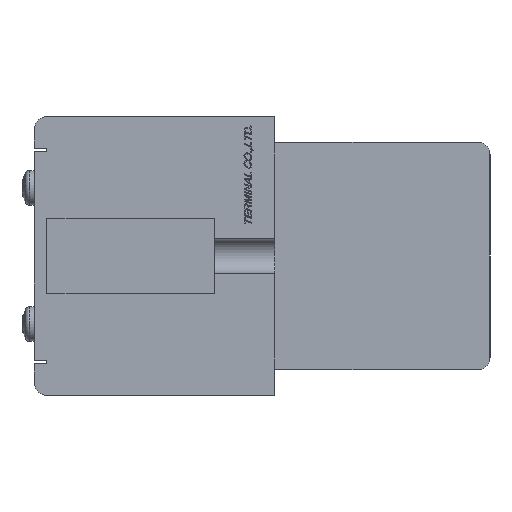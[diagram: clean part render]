
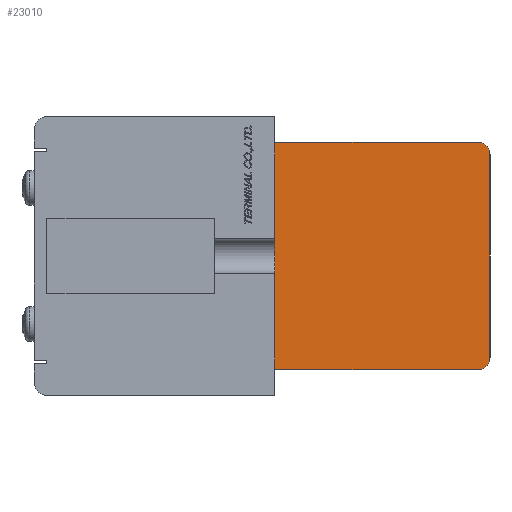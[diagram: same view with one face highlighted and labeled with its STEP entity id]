
A CAD part, left-side view. The second image highlights one B-rep face of the part: STEP entity #23010.
In plain terms, the highlighted planar face has unit normal (-1, 0, 0).
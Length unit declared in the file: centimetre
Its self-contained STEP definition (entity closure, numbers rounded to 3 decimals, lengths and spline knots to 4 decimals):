
#887=CIRCLE('',#39290,0.2);
#888=CIRCLE('',#39293,0.2);
#2817=VERTEX_POINT('',#34729);
#2818=VERTEX_POINT('',#34730);
#2819=VERTEX_POINT('',#34735);
#2820=VERTEX_POINT('',#34739);
#2821=VERTEX_POINT('',#34743);
#2822=VERTEX_POINT('',#34744);
#5097=VECTOR('',#27460,1.);
#5100=VECTOR('',#27468,1.);
#5101=VECTOR('',#27469,1.);
#5102=VECTOR('',#27470,1.);
#7348=LINE('',#34734,#5097);
#7351=LINE('',#34742,#5100);
#7352=LINE('',#34745,#5101);
#7353=LINE('',#34746,#5102);
#10308=EDGE_CURVE('',#2817,#2818,#887,.T.);
#10311=EDGE_CURVE('',#2818,#2819,#7348,.T.);
#10313=EDGE_CURVE('',#2819,#2820,#888,.T.);
#10315=EDGE_CURVE('',#2821,#2822,#7351,.T.);
#10316=EDGE_CURVE('',#2820,#2821,#7352,.T.);
#10317=EDGE_CURVE('',#2822,#2817,#7353,.T.);
#15680=ORIENTED_EDGE('',*,*,#10315,.F.);
#15681=ORIENTED_EDGE('',*,*,#10316,.F.);
#15682=ORIENTED_EDGE('',*,*,#10313,.F.);
#15683=ORIENTED_EDGE('',*,*,#10311,.F.);
#15684=ORIENTED_EDGE('',*,*,#10308,.F.);
#15685=ORIENTED_EDGE('',*,*,#10317,.F.);
#19982=EDGE_LOOP('',(#15680,#15681,#15682,#15683,#15684,#15685));
#21561=FACE_BOUND('',#19982,.T.);
#23010=ADVANCED_FACE('',(#21561),#24095,.F.);
#24095=PLANE('',#39294);
#27455=DIRECTION('',(1.,0.,0.));
#27456=DIRECTION('',(0.,0.,-0.2));
#27460=DIRECTION('',(0.,0.,-1.));
#27464=DIRECTION('',(1.,0.,0.));
#27465=DIRECTION('',(0.,0.,-0.2));
#27467=DIRECTION('',(1.,0.,0.));
#27468=DIRECTION('',(0.,0.,1.));
#27469=DIRECTION('',(0.,1.,0.));
#27470=DIRECTION('',(0.,-1.,0.));
#34728=CARTESIAN_POINT('',(-5.1,-3.2,1.6));
#34729=CARTESIAN_POINT('',(-5.1,-3.2,1.8));
#34730=CARTESIAN_POINT('',(-5.1,-3.4,1.6));
#34734=CARTESIAN_POINT('',(-5.1,-3.4,-1.6));
#34735=CARTESIAN_POINT('',(-5.1,-3.4,-1.6));
#34738=CARTESIAN_POINT('',(-5.1,-3.2,-1.6));
#34739=CARTESIAN_POINT('',(-5.1,-3.2,-1.8));
#34741=CARTESIAN_POINT('',(-5.1,-1.6784,0.));
#34742=CARTESIAN_POINT('',(-5.1,0.,1.8));
#34743=CARTESIAN_POINT('',(-5.1,0.,-1.8));
#34744=CARTESIAN_POINT('',(-5.1,0.,1.8));
#34745=CARTESIAN_POINT('',(-5.1,0.,-1.8));
#34746=CARTESIAN_POINT('',(-5.1,-3.2,1.8));
#39290=AXIS2_PLACEMENT_3D('',#34728,#27455,#27456);
#39293=AXIS2_PLACEMENT_3D('',#34738,#27464,#27465);
#39294=AXIS2_PLACEMENT_3D('',#34741,#27467,$);
